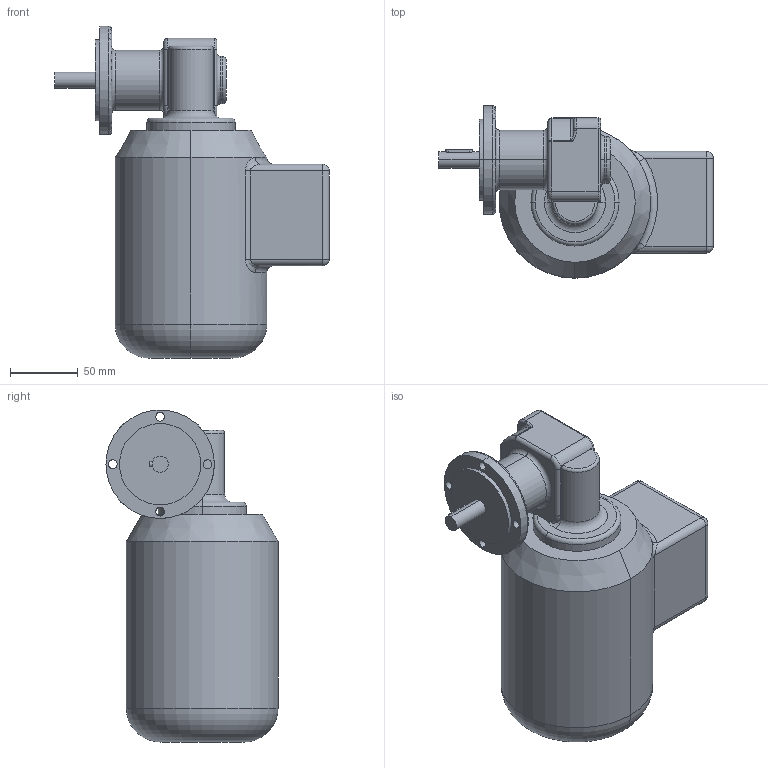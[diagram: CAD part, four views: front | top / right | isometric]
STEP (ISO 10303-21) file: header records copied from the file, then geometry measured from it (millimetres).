
FILE_DESCRIPTION (( 'STEP AP203' ), '1' );
FILE_NAME ('SN5FL-90,120W-B.STEP', '2007-09-13T06:11:13', ( ' ' ), ( ' ' ), 'SwSTEP 2.0', 'SolidWorks 2006233', '' );
FILE_SCHEMA (( 'CONFIG_CONTROL_DESIGN' ));
Length unit declared in the file: millimetre
Products named in the file (3): BG56of_Standard; SN5FL-90,120W-B; SN5FL_Standard
Assembly tree (2 placements, depth 2):
  SN5FL-90,120W-B
    BG56of_Standard
    SN5FL_Standard
Bounding box: 202.5 x 127 x 245 mm (x, y, z)
Volume: 2171942.6 mm3; surface area: 125197.3 mm2
Topology: 2 solids, 2 shells, 140 faces, 325 edges, 183 vertices
Faces by surface type: cylinder 60, torus 35, plane 27, bspline 12, sphere 4, cone 2
Entity records: 5447 total; most frequent: CARTESIAN_POINT 2016, DIRECTION 710, ORIENTED_EDGE 634, EDGE_CURVE 317, AXIS2_PLACEMENT_3D 305, VERTEX_POINT 183, CIRCLE 172, EDGE_LOOP 150
